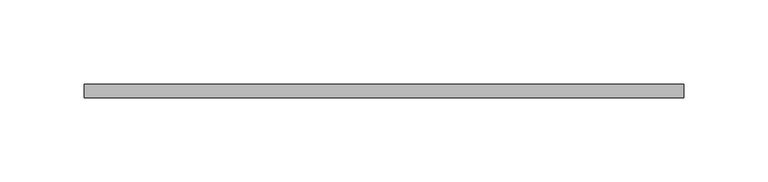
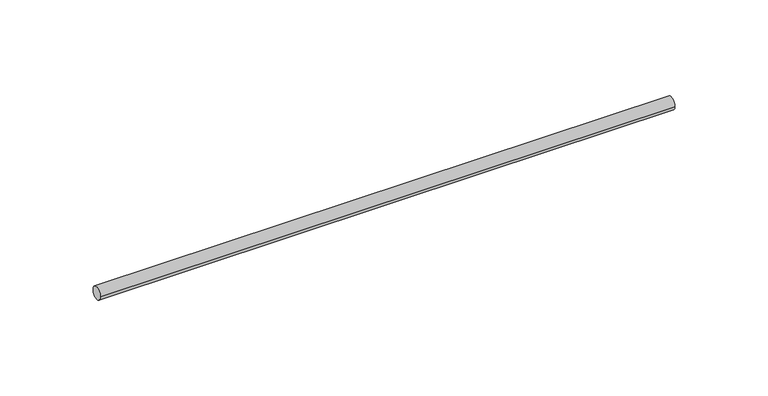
"""IFC4 building model written with IfcOpenShell, lengths in millimetres: valve geometry, Superfix Threaded Rod (used for clamps) : Threaded Rod  Extra  - 1000 mm (used for clamps)."""

from ifc_helpers import new_model, si_unit, point, frame, origin, origin_2d, place, context, project, spatial, circle_curve, trimmed, segment, composite_curve, outline, extrude, source, transform, mapped, element, save


def valve_e615a615(model_context):
    return source(origin(), model_context, "Body", "SweptSolid", [
        extrude(outline(composite_curve([segment(trimmed(circle_curve(origin_2d(), 4.0), [point((-4.0, 0.0))], [point((4.0, 0.0))], False, "CARTESIAN"), True, "CONTINUOUS"), segment(trimmed(circle_curve(origin_2d(), 4.0), [point((4.0, 0.0))], [point((-4.0, 0.0))], False, "CARTESIAN"), True, "CONTINUOUS")], self_intersect=False)), frame((-10.0, 0.0, 0.0), z_axis=(1.0, 0.0, 0.0), x_axis=(0.0, 1.0, 0.0)), (0.0, 0.0, 1.0), 356.5002332),
    ])


if __name__ == "__main__":
    model = new_model("IFC4")
    model_context = context("Model", 3, world=origin())
    ifc_project = project(units=[si_unit("LENGTHUNIT", "METRE", prefix="MILLI")], contexts=[model_context])
    site = spatial("IfcSite", under=ifc_project)
    building = spatial("IfcBuilding", under=site)
    placement = place(None, origin())
    valve_shape = valve_e615a615(model_context)
    element("IfcValve", 1, ObjectType="Superfix Threaded Rod (used for clamps) : Threaded Rod  Extra  - 1000 mm (used for clamps)", at=placement, inside=building, context=model_context, shape_type="MappedRepresentation", body=[
        mapped(valve_shape, transform((0.0, 0.0, 0.0), x_axis=(1.0, 0.0, 0.0), y_axis=(0.0, 1.0, 0.0), z_axis=(0.0, 0.0, 1.0))),
    ])
    save(model, "model.ifc")
